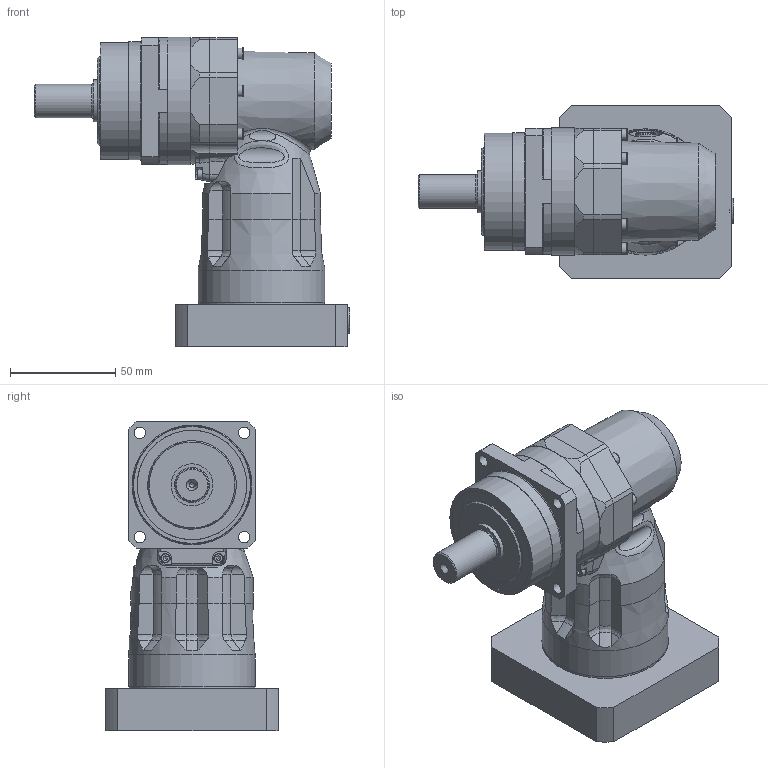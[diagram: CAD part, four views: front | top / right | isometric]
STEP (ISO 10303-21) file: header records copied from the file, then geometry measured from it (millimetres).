
FILE_DESCRIPTION(/* description */ ('ANFX-PK110N-3-H20G'),/* implementation_level */ '2;1');
FILE_NAME(/* name */ 'C:\Users\ADMINI~1\AppData\Local\Temp\MM581862_ANFX-PK110N-3-H20G.stp',/* time_stamp */ '2018-07-12T15:57:28+02:00',/* author */ ('Max'),/* organization */ (''),/* preprocessor_version */ 'ST-DEVELOPER v17',/* originating_system */ 'Autodesk Inventor 2018',/* authorisation */ '');
FILE_SCHEMA (('AUTOMOTIVE_DESIGN { 1 0 10303 214 3 1 1 }'));
Length unit declared in the file: millimetre
Products named in the file (24): MM581710; MMBG0004105; MMCM057LG; MMAF787LG; 202119; MMAP6508G; 009M004R012NG; M531N20357---G; 211458; 212123; 213374; MMBG0004130; MMCL239LG; MMCL433LG; MAW8353G; MAX4839G; MMBG0004116; MMAF790LG; M009M2,5R020NG; MAZ16117-5; MMAP3153G; 134925; MAW8386G; 211554
Assembly tree (51 placements, depth 3):
  MM581710
    MMBG0004105
      MMCM057LG
      MMAF787LG
      202119
      MMAP6508G
      009M004R012NG
      M531N20357---G
      211458  x2
      212123  x8
      213374  x6
    MMBG0004130
      MMCL239LG
      MMCL433LG
      MAW8353G
      MAX4839G
    MMBG0004116
      MMAF790LG
      M009M2,5R020NG  x8
      MAZ16117-5  x2
      MMAP3153G
    134925
    MAW8386G
    211554  x8
Bounding box: 150 x 82 x 146.95 mm (x, y, z)
Volume: 372721.6 mm3; surface area: 158640.4 mm2
Topology: 117 solids, 118 shells, 1206 faces, 3418 edges, 2402 vertices
Faces by surface type: plane 529, cylinder 324, cone 146, torus 95, sphere 68, bspline 44
Full cylindrical faces by diameter (mm): 2 x1, 2.013 x10, 2.459 x14, 2.5 x11, 2.9 x18, 3 x14, 3.242 x9, 3.4 x14, 4 x9, 4.5 x19, 4.917 x4, 5.5 x26, 7 x9, 8 x8, 8.566 x2, 9.8 x1, 10 x1, 10.2 x1, 10.4 x1, 12 x1, 14 x1, 14.5 x1, 15 x2, 16 x1, 17.5 x1, 19 x1, 19.4 x1, 19.6 x1, 20 x3, 20.5 x1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
Entity records: 29019 total; most frequent: CARTESIAN_POINT 6858, DIRECTION 4701, ORIENTED_EDGE 4206, EDGE_CURVE 2103, AXIS2_PLACEMENT_3D 1998, VERTEX_POINT 1596, CIRCLE 1148, EDGE_LOOP 1021
